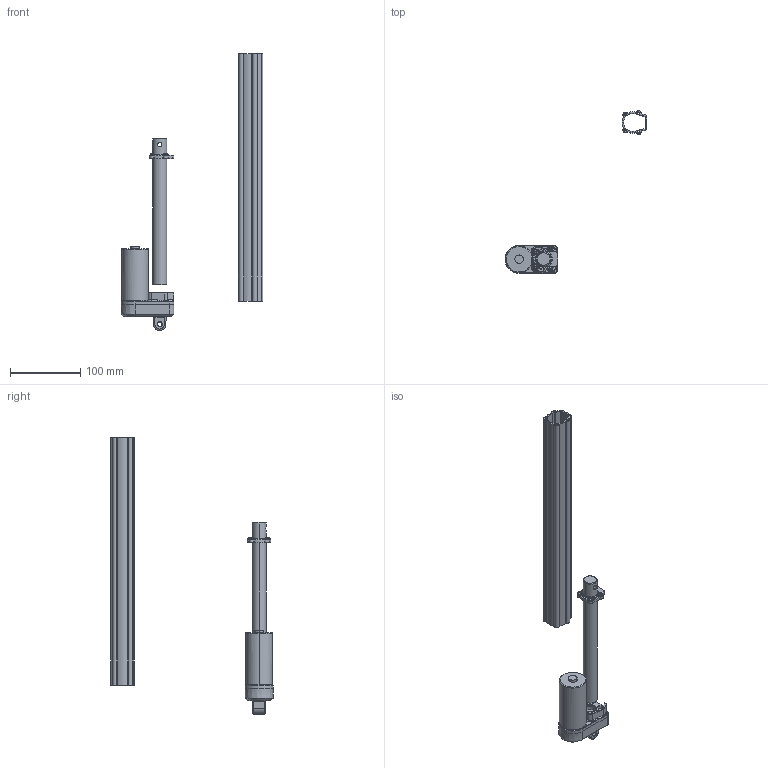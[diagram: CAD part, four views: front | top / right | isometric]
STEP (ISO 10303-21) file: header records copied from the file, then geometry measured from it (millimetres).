
FILE_DESCRIPTION(/* description */ ('Alibre Inc.'),/* implementation_level */ '2;1');
FILE_NAME(/* name */ 'export0',/* time_stamp */ '2008-04-02T09:55:31+02:00',/* author */ (''),/* organization */ (''),/* preprocessor_version */ 'ST-DEVELOPER v10',/* originating_system */ 'Alibre',/* authorisation */ '');
FILE_SCHEMA (('ALIBRE_SCHEMA','CONFIG_CONTROL_DESIGN'));
Length unit declared in the file: centimetre
Products named in the file (4): ID_1; ID_2; ID_3
Bounding box: 201.76 x 230.84 x 393.81 mm (x, y, z)
Volume: 264292.5 mm3; surface area: 140949.6 mm2
Topology: 3 solids, 3 shells, 638 faces, 1641 edges, 1013 vertices
Faces by surface type: cylinder 206, plane 181, torus 123, cone 102, bspline 24, sphere 2
Entity records: 44374 total; most frequent: CARTESIAN_POINT 11809, DIRECTION 6338, ORIENTED_EDGE 6276, EDGE_CURVE 3138, AXIS2_PLACEMENT_3D 2877, VERTEX_POINT 1938, CIRCLE 1640, EDGE_LOOP 1308
